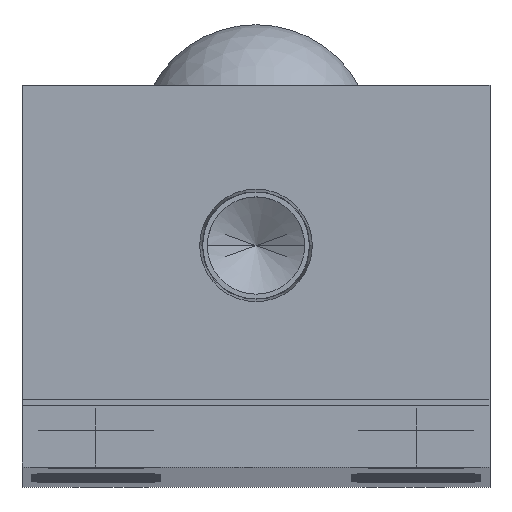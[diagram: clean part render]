
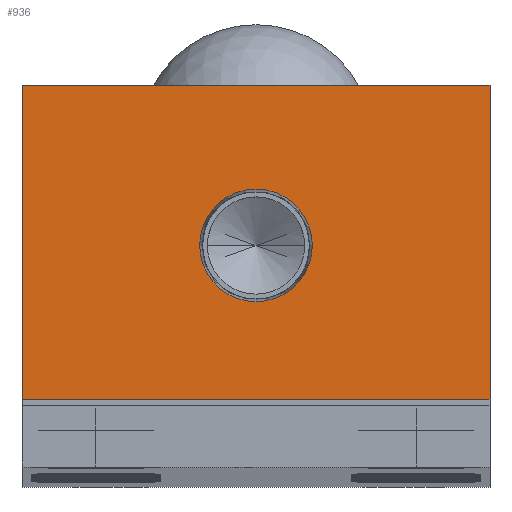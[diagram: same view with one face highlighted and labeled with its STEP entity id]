
A CAD part, top view. The second image highlights one B-rep face of the part: STEP entity #936.
In plain terms, the highlighted planar face has unit normal (0, 0, 1).
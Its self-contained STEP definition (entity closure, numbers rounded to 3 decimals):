
#936 = ADVANCED_FACE ( 'NONE', ( #20538, #16129 ), #6026, .T. ) ;
#1861 = EDGE_CURVE ( 'NONE', #14532, #4528, #7799, .T. ) ;
#2280 = EDGE_CURVE ( 'NONE', #4528, #14532, #13244, .T. ) ;
#2592 = CARTESIAN_POINT ( 'NONE',  ( 0., 0., 0. ) ) ;
#3250 = VECTOR ( 'NONE', #5556, 1000. ) ;
#4528 = VERTEX_POINT ( 'NONE', #13505 ) ;
#4671 = LINE ( 'NONE', #21411, #13536 ) ;
#5185 = CARTESIAN_POINT ( 'NONE',  ( 0., 18., 0. ) ) ;
#5420 = ORIENTED_EDGE ( 'NONE', *, *, #2280, .F. ) ;
#5504 = EDGE_LOOP ( 'NONE', ( #6935, #5420 ) ) ;
#5556 = DIRECTION ( 'NONE',  ( 0., 1., 0. ) ) ;
#5875 = VECTOR ( 'NONE', #15007, 1000. ) ;
#6026 = PLANE ( 'NONE',  #19712 ) ;
#6104 = CARTESIAN_POINT ( 'NONE',  ( 4.574, 18., 0. ) ) ;
#6164 = LINE ( 'NONE', #19238, #18864 ) ;
#6283 = VERTEX_POINT ( 'NONE', #20058 ) ;
#6726 = EDGE_CURVE ( 'NONE', #15524, #12147, #19095, .T. ) ;
#6838 = DIRECTION ( 'NONE',  ( 1., 0., 0. ) ) ;
#6890 = EDGE_CURVE ( 'NONE', #12147, #6283, #7164, .T. ) ;
#6935 = ORIENTED_EDGE ( 'NONE', *, *, #1861, .F. ) ;
#7164 = LINE ( 'NONE', #13832, #3250 ) ;
#7370 = DIRECTION ( 'NONE',  ( 0., 0., 1. ) ) ;
#7699 = DIRECTION ( 'NONE',  ( 1., 0., 0. ) ) ;
#7735 = EDGE_LOOP ( 'NONE', ( #19628, #10155, #7864, #17649 ) ) ;
#7799 = CIRCLE ( 'NONE', #21406, 4.574 ) ;
#7864 = ORIENTED_EDGE ( 'NONE', *, *, #20307, .T. ) ;
#10155 = ORIENTED_EDGE ( 'NONE', *, *, #6890, .T. ) ;
#10690 = VERTEX_POINT ( 'NONE', #14541 ) ;
#10992 = DIRECTION ( 'NONE',  ( -1., 0., 0. ) ) ;
#12147 = VERTEX_POINT ( 'NONE', #13687 ) ;
#12504 = EDGE_CURVE ( 'NONE', #10690, #15524, #4671, .T. ) ;
#12815 = AXIS2_PLACEMENT_3D ( 'NONE', #5185, #16786, #6838 ) ;
#13244 = CIRCLE ( 'NONE', #12815, 4.574 ) ;
#13505 = CARTESIAN_POINT ( 'NONE',  ( -4.574, 18., 0. ) ) ;
#13536 = VECTOR ( 'NONE', #16468, 1000. ) ;
#13687 = CARTESIAN_POINT ( 'NONE',  ( 19., 5.5, 0. ) ) ;
#13832 = CARTESIAN_POINT ( 'NONE',  ( 19., 5.5, 0. ) ) ;
#14532 = VERTEX_POINT ( 'NONE', #6104 ) ;
#14541 = CARTESIAN_POINT ( 'NONE',  ( -19., 31., 0. ) ) ;
#15007 = DIRECTION ( 'NONE',  ( 1., 0., 0. ) ) ;
#15524 = VERTEX_POINT ( 'NONE', #20344 ) ;
#16129 = FACE_OUTER_BOUND ( 'NONE', #7735, .T. ) ;
#16468 = DIRECTION ( 'NONE',  ( 0., -1., 0. ) ) ;
#16650 = CARTESIAN_POINT ( 'NONE',  ( 19., 5.5, 0. ) ) ;
#16786 = DIRECTION ( 'NONE',  ( 0., 0., 1. ) ) ;
#17312 = CARTESIAN_POINT ( 'NONE',  ( 0., 18., 0. ) ) ;
#17619 = DIRECTION ( 'NONE',  ( 0., 0., 1. ) ) ;
#17649 = ORIENTED_EDGE ( 'NONE', *, *, #12504, .T. ) ;
#18864 = VECTOR ( 'NONE', #10992, 1000. ) ;
#18972 = DIRECTION ( 'NONE',  ( 1., 0., 0. ) ) ;
#19095 = LINE ( 'NONE', #16650, #5875 ) ;
#19238 = CARTESIAN_POINT ( 'NONE',  ( 19., 31., 0. ) ) ;
#19628 = ORIENTED_EDGE ( 'NONE', *, *, #6726, .T. ) ;
#19712 = AXIS2_PLACEMENT_3D ( 'NONE', #2592, #17619, #7699 ) ;
#20058 = CARTESIAN_POINT ( 'NONE',  ( 19., 31., 0. ) ) ;
#20307 = EDGE_CURVE ( 'NONE', #6283, #10690, #6164, .T. ) ;
#20344 = CARTESIAN_POINT ( 'NONE',  ( -19., 5.5, 0. ) ) ;
#20538 = FACE_BOUND ( 'NONE', #5504, .T. ) ;
#21406 = AXIS2_PLACEMENT_3D ( 'NONE', #17312, #7370, #18972 ) ;
#21411 = CARTESIAN_POINT ( 'NONE',  ( -19., 31., 0. ) ) ;
